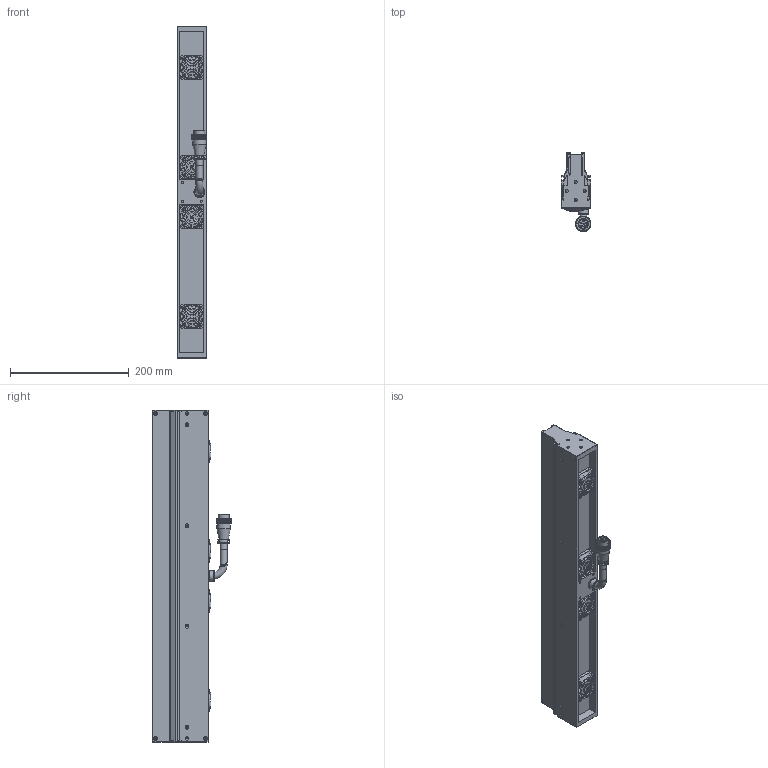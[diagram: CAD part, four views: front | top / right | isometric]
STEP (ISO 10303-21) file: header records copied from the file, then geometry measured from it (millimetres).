
FILE_DESCRIPTION (( 'STEP AP203' ), '1' );
FILE_NAME ('OPT-LSS560-R-V3.1尨砩芞.STEP', '2025-02-08T07:44:23', ( '' ), ( '' ), 'SwSTEP 2.0', 'SolidWorks 2016', '' );
FILE_SCHEMA (( 'CONFIG_CONTROL_DESIGN' ));
Products named in the file (1): OPT-LSS560-R-V3.1尨砩芞
Bounding box: 50.6 x 133 x 560 mm (x, y, z)
Volume: 1904243.3 mm3; surface area: 301470 mm2
Topology: 21 solids, 25 shells, 2692 faces, 6967 edges, 4431 vertices
Faces by surface type: bspline 1051, cylinder 813, plane 613, torus 160, cone 55
Full cylindrical faces by diameter (mm): 1 x2, 1.1 x2, 1.4 x2, 1.6 x16, 2 x4, 2.5 x24, 3 x4, 3.2 x20, 3.4 x20, 3.5 x12, 5 x8, 6.2 x16, 8 x1, 11.6 x1, 11.7 x3, 12 x1, 15 x1, 15.9 x1, 17.5 x1, 18 x1, 18.5 x1, 22.8 x1, 24 x1, 24.8 x4, 38 x4
Entity records: 102269 total; most frequent: CARTESIAN_POINT 48904, ORIENTED_EDGE 13142, DIRECTION 6896, EDGE_CURVE 6571, VERTEX_POINT 4334, B_SPLINE_CURVE_WITH_KNOTS 4085, EDGE_LOOP 3133, FACE_OUTER_BOUND 2920
